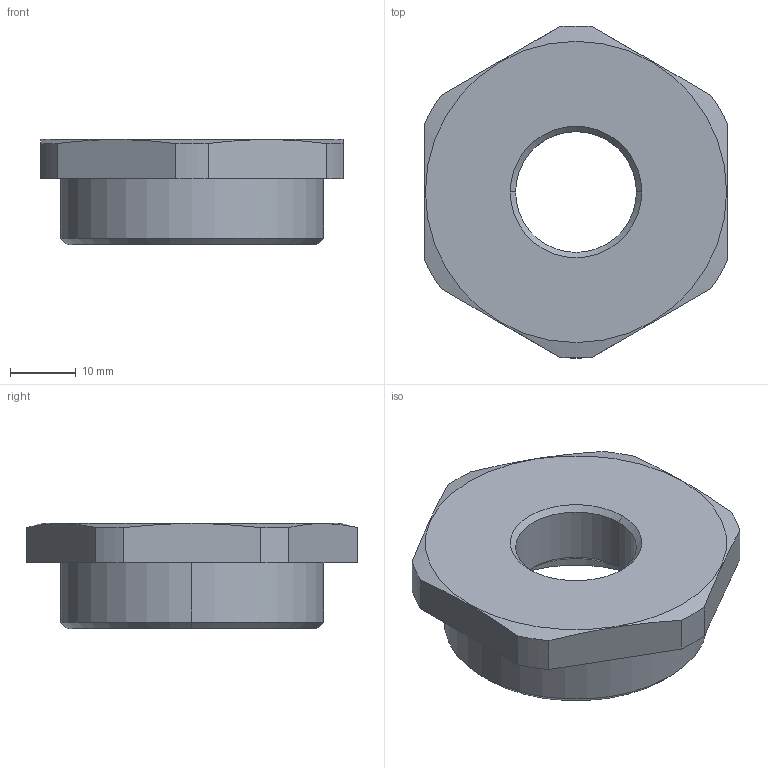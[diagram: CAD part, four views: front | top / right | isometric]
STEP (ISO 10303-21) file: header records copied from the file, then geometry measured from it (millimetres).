
FILE_DESCRIPTION (( 'STEP AP203' ), '1' );
FILE_NAME ('M40M20 PA.STEP', '2005-12-09T07:44:55', ( ' ' ), ( '' ), 'SwSTEP 2.0', 'SolidWorks 2005278', '' );
FILE_SCHEMA (( 'CONFIG_CONTROL_DESIGN' ));
Length unit declared in the file: millimetre
Products named in the file (1): M40M20 PA
Bounding box: 46 x 50.47 x 16 mm (x, y, z)
Volume: 12496.1 mm3; surface area: 7601.9 mm2
Topology: 1 solids, 1 shells, 70 faces, 180 edges, 118 vertices
Faces by surface type: plane 48, cylinder 14, cone 8
Entity records: 2229 total; most frequent: CARTESIAN_POINT 421, ORIENTED_EDGE 360, DIRECTION 350, EDGE_CURVE 180, VECTOR 136, LINE 136, VERTEX_POINT 118, AXIS2_PLACEMENT_3D 107
